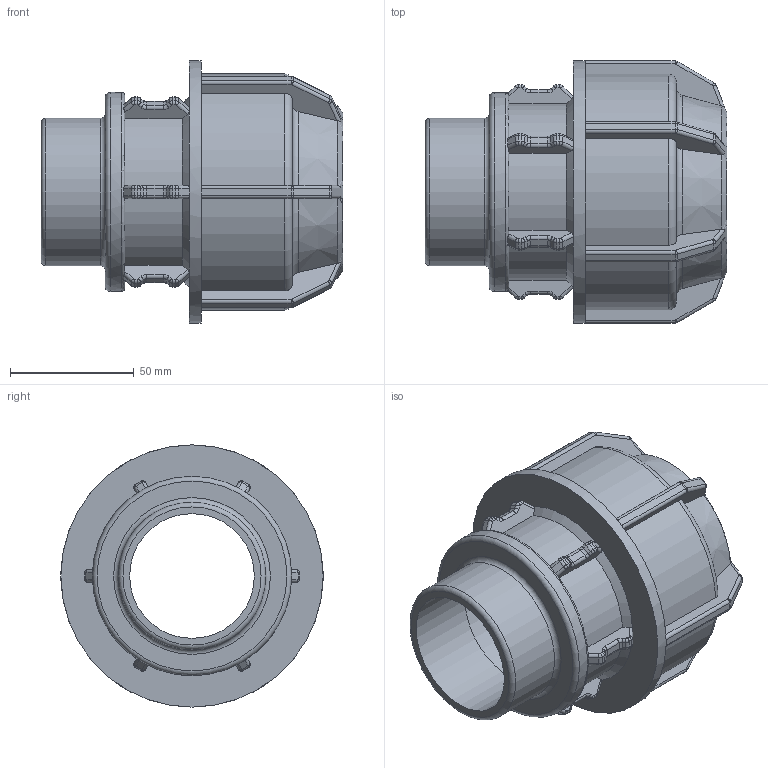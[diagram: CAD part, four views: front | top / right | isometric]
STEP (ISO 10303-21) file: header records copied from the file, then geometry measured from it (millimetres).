
FILE_DESCRIPTION(/* description */ ('PLASSON L.14 MALE ADAPTOR (SILVER) 63-2'''''),/* implementation_level */ '2;1');
FILE_NAME(/* name */ 'C:\Dropbox\KIMPROJECTS-Inventor\99-16-3568-Processing\Silver+MF ISRAEL\140200\140200063020.ipt.stp',/* time_stamp */ '2018-04-09T13:02:52+03:00',/* author */ ('KIM'),/* organization */ (''),/* preprocessor_version */ 'ST-DEVELOPER v15.6',/* originating_system */ 'Autodesk Inventor 2015',/* authorisation */ '');
FILE_SCHEMA (('AUTOMOTIVE_DESIGN { 1 0 10303 214 3 1 1 }'));
Length unit declared in the file: millimetre
Products named in the file (1): 140200063020
Bounding box: 122 x 106 x 106 mm (x, y, z)
Volume: 277459.3 mm3; surface area: 72492.3 mm2
Topology: 1 solids, 1 shells, 470 faces, 1157 edges, 686 vertices
Faces by surface type: cylinder 186, plane 157, bspline 72, torus 42, cone 13
Full cylindrical faces by diameter (mm): 50.4 x1, 59.614 x1, 63 x2, 80.479 x1, 106 x1
Entity records: 14502 total; most frequent: CARTESIAN_POINT 3786, DIRECTION 2310, ORIENTED_EDGE 2252, EDGE_CURVE 1126, AXIS2_PLACEMENT_3D 930, VERTEX_POINT 676, CIRCLE 508, EDGE_LOOP 488
